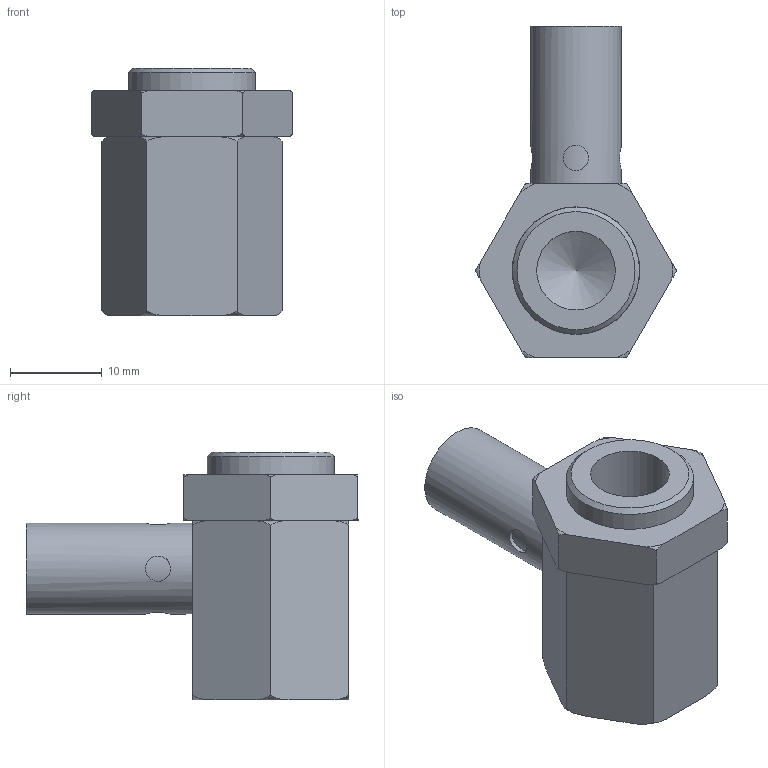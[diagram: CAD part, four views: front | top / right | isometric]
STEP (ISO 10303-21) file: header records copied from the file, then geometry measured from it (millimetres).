
FILE_DESCRIPTION (( 'STEP AP214' ), '1' );
FILE_NAME ('SSV-21-G18.STEP', '2021-12-13T16:11:19', ( '' ), ( '' ), 'SwSTEP 2.0', 'SolidWorks 2018', '' );
FILE_SCHEMA (( 'AUTOMOTIVE_DESIGN' ));
Length unit declared in the file: inch
Products named in the file (3): SSV-21-G18; VR-B01B01 NUT
Assembly tree (2 placements, depth 2):
  SSV-21-G18
    SSV-21-G18
    VR-B01B01 NUT
Bounding box: 21.94 x 36.15 x 27 mm (x, y, z)
Volume: 7275.6 mm3; surface area: 3883.2 mm2
Topology: 2 solids, 2 shells, 62 faces, 153 edges, 100 vertices
Faces by surface type: torus 24, plane 22, cylinder 13, cone 3
Full cylindrical faces by diameter (mm): 2.748 x4, 8.566 x2, 9.9 x1, 12.9 x1, 13.85 x1
Entity records: 2466 total; most frequent: CARTESIAN_POINT 1003, ORIENTED_EDGE 270, DIRECTION 252, EDGE_CURVE 135, AXIS2_PLACEMENT_3D 106, VERTEX_POINT 95, EDGE_LOOP 82, FACE_OUTER_BOUND 71
